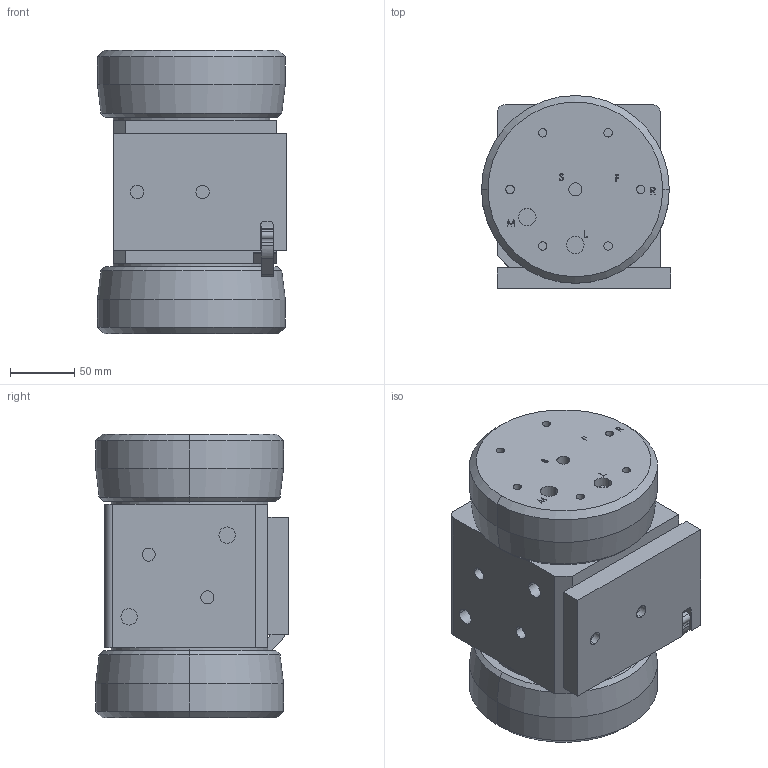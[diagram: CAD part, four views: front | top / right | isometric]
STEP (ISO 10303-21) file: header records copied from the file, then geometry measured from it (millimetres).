
FILE_DESCRIPTION (( 'STEP AP214' ), '1' );
FILE_NAME ('psh-060-no-shuttle.STEP', '2012-11-21T21:38:18', ( '' ), ( '' ), 'SwSTEP 2.0', 'SolidWorks 2012', '' );
FILE_SCHEMA (( 'AUTOMOTIVE_DESIGN' ));
Length unit declared in the file: inch
Products named in the file (1): psh-060-no-shuttle
Bounding box: 146.99 x 149.81 x 220.42 mm (x, y, z)
Volume: 3658985.1 mm3; surface area: 202318.9 mm2
Topology: 2 solids, 2 shells, 1027 faces, 2693 edges, 1796 vertices
Faces by surface type: plane 720, bspline 158, cylinder 133, cone 16
Entity records: 39904 total; most frequent: CARTESIAN_POINT 14459, ORIENTED_EDGE 5386, DIRECTION 4427, EDGE_CURVE 2693, LINE 2067, VECTOR 2067, VERTEX_POINT 1796, AXIS2_PLACEMENT_3D 1180
